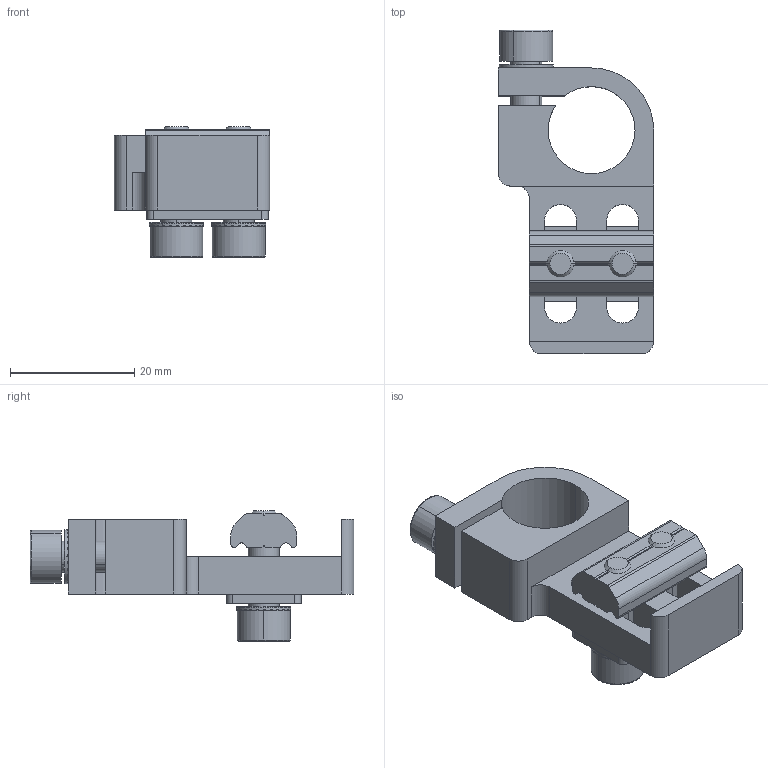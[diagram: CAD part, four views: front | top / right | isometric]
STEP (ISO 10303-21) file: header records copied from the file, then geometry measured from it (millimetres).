
FILE_DESCRIPTION (( 'STEP AP214' ), '1' );
FILE_NAME ('SMBE-1414T.STEP', '2022-12-13T09:07:38', ( '' ), ( '' ), 'SwSTEP 2.0', 'SolidWorks 2018', '' );
FILE_SCHEMA (( 'AUTOMOTIVE_DESIGN' ));
Length unit declared in the file: millimetre
Products named in the file (1): SMBE-1414T
Bounding box: 25 x 52.1 x 21 mm (x, y, z)
Volume: 8320.8 mm3; surface area: 7537.1 mm2
Topology: 9 solids, 9 shells, 742 faces, 2148 edges, 1421 vertices
Faces by surface type: plane 659, cylinder 71, cone 6, bspline 6
Entity records: 33313 total; most frequent: CARTESIAN_POINT 4909, ORIENTED_EDGE 4296, DIRECTION 4275, EDGE_CURVE 2148, AXIS2_PLACEMENT_3D 1434, VERTEX_POINT 1421, VECTOR 1407, LINE 1407
